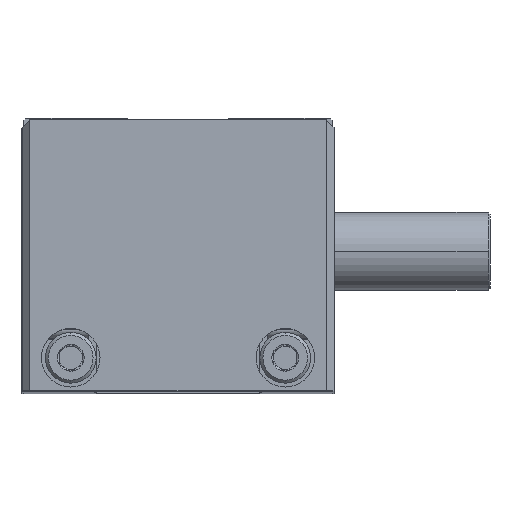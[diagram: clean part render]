
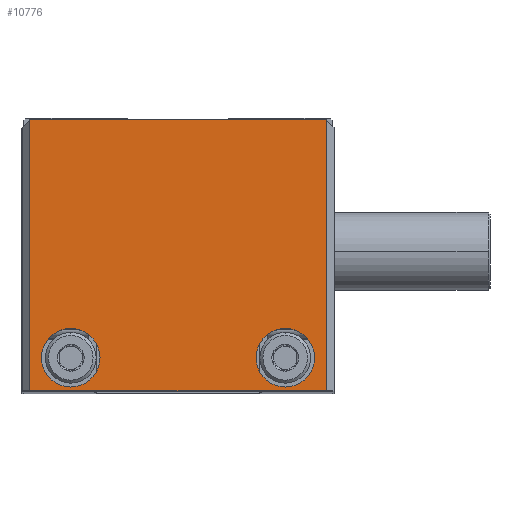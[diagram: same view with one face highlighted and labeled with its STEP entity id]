
A CAD part, top view. The second image highlights one B-rep face of the part: STEP entity #10776.
In plain terms, the highlighted planar face has unit normal (0, 0, 1).
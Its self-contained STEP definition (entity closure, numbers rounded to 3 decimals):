
#1 = AXIS2_PLACEMENT_3D ( 'NONE', #20238, #6341, #22599 ) ;
#213 = DIRECTION ( 'NONE',  ( -1., 0., 0. ) ) ;
#391 = CARTESIAN_POINT ( 'NONE',  ( 123.767, 10.187, 307.976 ) ) ;
#565 = EDGE_LOOP ( 'NONE', ( #29196, #12020 ) ) ;
#875 = CARTESIAN_POINT ( 'NONE',  ( 123.767, 10.187, 307.976 ) ) ;
#2425 = LINE ( 'NONE', #13310, #26349 ) ;
#3259 = VERTEX_POINT ( 'NONE', #8185 ) ;
#3521 = VECTOR ( 'NONE', #17912, 1000. ) ;
#3833 = FACE_BOUND ( 'NONE', #565, .T. ) ;
#4394 = EDGE_CURVE ( 'NONE', #8049, #24778, #19102, .T. ) ;
#4583 = EDGE_CURVE ( 'NONE', #22757, #17712, #2425, .T. ) ;
#4708 = EDGE_LOOP ( 'NONE', ( #13932, #17903, #28944, #8217 ) ) ;
#5173 = DIRECTION ( 'NONE',  ( 0., 1., 0. ) ) ;
#5692 = CARTESIAN_POINT ( 'NONE',  ( 111.267, 18.687, 307.976 ) ) ;
#6117 = EDGE_CURVE ( 'NONE', #18301, #3259, #20833, .T. ) ;
#6127 = DIRECTION ( 'NONE',  ( 0., 0., -1. ) ) ;
#6341 = DIRECTION ( 'NONE',  ( 0., 0., 1. ) ) ;
#6750 = DIRECTION ( 'NONE',  ( 0., -1., 0. ) ) ;
#7046 = EDGE_CURVE ( 'NONE', #3259, #18301, #23728, .T. ) ;
#7479 = EDGE_CURVE ( 'NONE', #24778, #8049, #25146, .T. ) ;
#7830 = PLANE ( 'NONE',  #10126 ) ;
#8049 = VERTEX_POINT ( 'NONE', #8916 ) ;
#8099 = DIRECTION ( 'NONE',  ( 1., 0., 0. ) ) ;
#8185 = CARTESIAN_POINT ( 'NONE',  ( 63.767, 18.687, 307.976 ) ) ;
#8217 = ORIENTED_EDGE ( 'NONE', *, *, #19035, .T. ) ;
#8333 = CARTESIAN_POINT ( 'NONE',  ( 121.767, 79.687, 307.976 ) ) ;
#8529 = CARTESIAN_POINT ( 'NONE',  ( 103.767, 18.687, 307.976 ) ) ;
#8916 = CARTESIAN_POINT ( 'NONE',  ( 118.767, 18.687, 307.976 ) ) ;
#9645 = LINE ( 'NONE', #15548, #3521 ) ;
#9954 = FACE_BOUND ( 'NONE', #21354, .T. ) ;
#10126 = AXIS2_PLACEMENT_3D ( 'NONE', #875, #26394, #12487 ) ;
#10776 = ADVANCED_FACE ( 'NONE', ( #3833, #9954, #22372 ), #7830, .F. ) ;
#12020 = ORIENTED_EDGE ( 'NONE', *, *, #7046, .T. ) ;
#12130 = CARTESIAN_POINT ( 'NONE',  ( 121.767, 79.687, 307.976 ) ) ;
#12280 = AXIS2_PLACEMENT_3D ( 'NONE', #5692, #22053, #8099 ) ;
#12487 = DIRECTION ( 'NONE',  ( -1., 0., 0. ) ) ;
#13310 = CARTESIAN_POINT ( 'NONE',  ( 45.767, 10.187, 307.976 ) ) ;
#13408 = EDGE_CURVE ( 'NONE', #29492, #17712, #19611, .T. ) ;
#13932 = ORIENTED_EDGE ( 'NONE', *, *, #18104, .T. ) ;
#14046 = DIRECTION ( 'NONE',  ( 0., 0., -1. ) ) ;
#15264 = CARTESIAN_POINT ( 'NONE',  ( 45.767, 79.687, 307.976 ) ) ;
#15548 = CARTESIAN_POINT ( 'NONE',  ( 123.767, 79.687, 307.976 ) ) ;
#16107 = VECTOR ( 'NONE', #5173, 1000. ) ;
#17712 = VERTEX_POINT ( 'NONE', #22862 ) ;
#17903 = ORIENTED_EDGE ( 'NONE', *, *, #4583, .T. ) ;
#17912 = DIRECTION ( 'NONE',  ( -1., 0., 0. ) ) ;
#18104 = EDGE_CURVE ( 'NONE', #28160, #22757, #9645, .T. ) ;
#18301 = VERTEX_POINT ( 'NONE', #20843 ) ;
#18864 = VECTOR ( 'NONE', #25917, 1000. ) ;
#19035 = EDGE_CURVE ( 'NONE', #29492, #28160, #28455, .T. ) ;
#19102 = CIRCLE ( 'NONE', #12280, 7.5 ) ;
#19611 = LINE ( 'NONE', #391, #18864 ) ;
#19816 = AXIS2_PLACEMENT_3D ( 'NONE', #20014, #6127, #22398 ) ;
#20014 = CARTESIAN_POINT ( 'NONE',  ( 56.267, 18.687, 307.976 ) ) ;
#20238 = CARTESIAN_POINT ( 'NONE',  ( 111.267, 18.687, 307.976 ) ) ;
#20356 = ORIENTED_EDGE ( 'NONE', *, *, #7479, .F. ) ;
#20833 = CIRCLE ( 'NONE', #24412, 7.5 ) ;
#20843 = CARTESIAN_POINT ( 'NONE',  ( 48.767, 18.687, 307.976 ) ) ;
#21248 = ORIENTED_EDGE ( 'NONE', *, *, #4394, .F. ) ;
#21354 = EDGE_LOOP ( 'NONE', ( #21248, #20356 ) ) ;
#22053 = DIRECTION ( 'NONE',  ( 0., 0., 1. ) ) ;
#22372 = FACE_OUTER_BOUND ( 'NONE', #4708, .T. ) ;
#22398 = DIRECTION ( 'NONE',  ( -1., 0., 0. ) ) ;
#22599 = DIRECTION ( 'NONE',  ( 1., 0., 0. ) ) ;
#22757 = VERTEX_POINT ( 'NONE', #15264 ) ;
#22862 = CARTESIAN_POINT ( 'NONE',  ( 45.767, 10.187, 307.976 ) ) ;
#23728 = CIRCLE ( 'NONE', #19816, 7.5 ) ;
#24412 = AXIS2_PLACEMENT_3D ( 'NONE', #27949, #14046, #213 ) ;
#24778 = VERTEX_POINT ( 'NONE', #8529 ) ;
#25146 = CIRCLE ( 'NONE', #1, 7.5 ) ;
#25917 = DIRECTION ( 'NONE',  ( -1., 0., 0. ) ) ;
#26349 = VECTOR ( 'NONE', #6750, 1000. ) ;
#26394 = DIRECTION ( 'NONE',  ( 0., 0., -1. ) ) ;
#27949 = CARTESIAN_POINT ( 'NONE',  ( 56.267, 18.687, 307.976 ) ) ;
#28138 = CARTESIAN_POINT ( 'NONE',  ( 121.767, 10.187, 307.976 ) ) ;
#28160 = VERTEX_POINT ( 'NONE', #8333 ) ;
#28455 = LINE ( 'NONE', #12130, #16107 ) ;
#28944 = ORIENTED_EDGE ( 'NONE', *, *, #13408, .F. ) ;
#29196 = ORIENTED_EDGE ( 'NONE', *, *, #6117, .T. ) ;
#29492 = VERTEX_POINT ( 'NONE', #28138 ) ;
